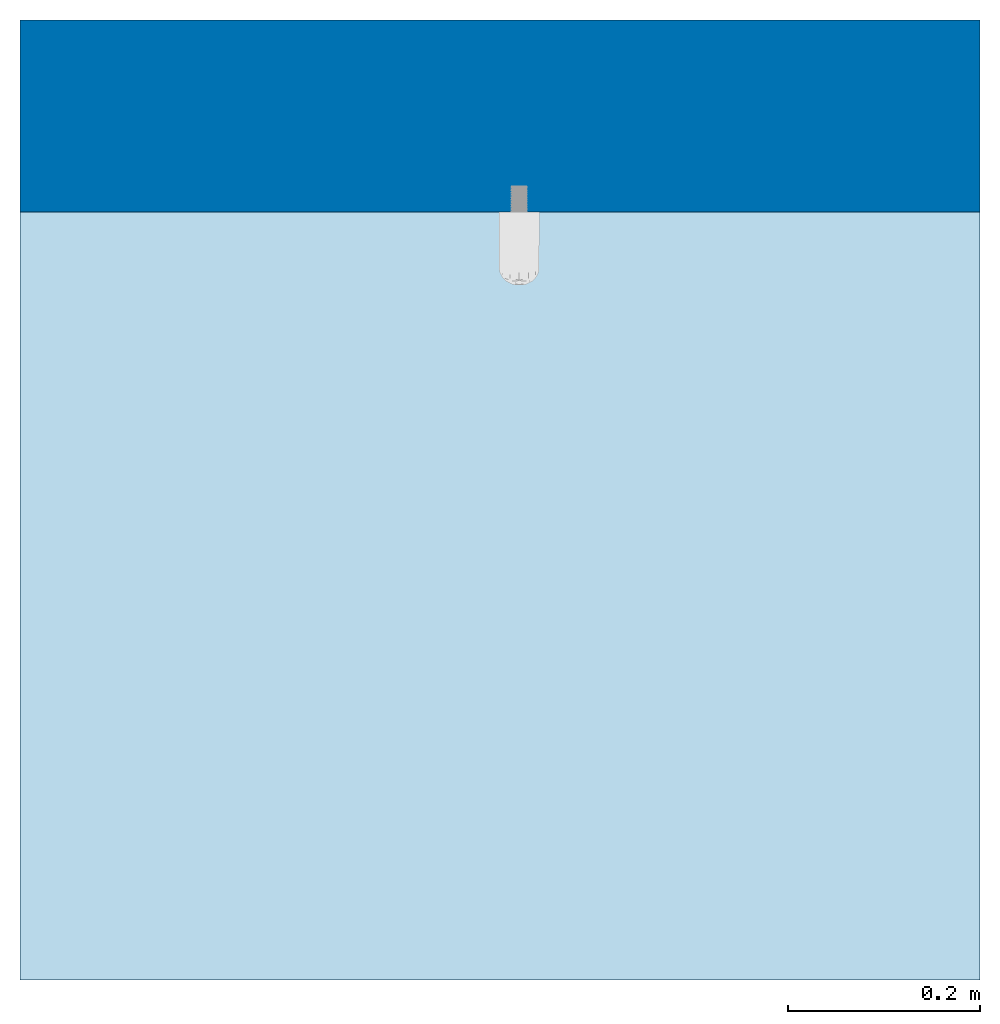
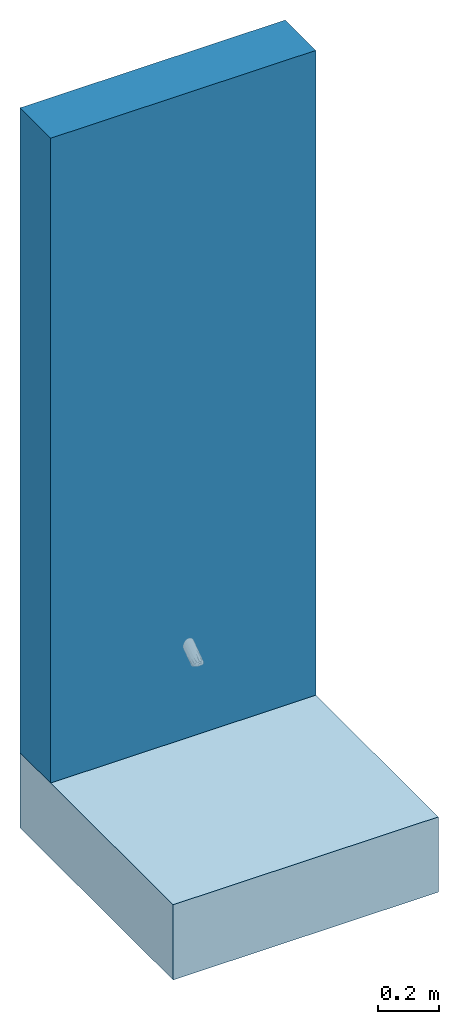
# One storey, incomplete: 1 slab, 1 wall.
"""IFC2X3 building model written with IfcOpenShell, lengths in millimetres."""

from ifc_helpers import new_model, entity, si_unit, converted_unit, derived_unit, direction, frame, frame_2d, origin, place, context, subcontext, project, spatial, rectangle, extrude, material, layer, layer_set, layer_usage, type_object, element, save


model = new_model("IFC2X3")

# Units and contexts
model_context = context("Model", 3, precision=0.01, world=origin(), true_north=direction((6.12303176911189e-17, 1.0)))
body_context = subcontext(model_context, "Body", "Model", "MODEL_VIEW")
ifc_project = project(units=[si_unit("LENGTHUNIT", "METRE", prefix="MILLI"), si_unit("AREAUNIT", "SQUARE_METRE"), si_unit("VOLUMEUNIT", "CUBIC_METRE"), converted_unit("PLANEANGLEUNIT", "DEGREE", entity("IfcRatioMeasure", 0.0174532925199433), si_unit("PLANEANGLEUNIT", "RADIAN"), dimensions=[0, 0, 0, 0, 0, 0, 0]), si_unit("MASSUNIT", "GRAM", prefix="KILO"), si_unit("TIMEUNIT", "SECOND"), si_unit("FREQUENCYUNIT", "HERTZ"), si_unit("THERMODYNAMICTEMPERATUREUNIT", "DEGREE_CELSIUS"), derived_unit("THERMALTRANSMITTANCEUNIT", [(si_unit("MASSUNIT", "GRAM", prefix="KILO"), 1), (si_unit("THERMODYNAMICTEMPERATUREUNIT", "KELVIN"), -1), (si_unit("TIMEUNIT", "SECOND"), -3)]), derived_unit("VOLUMETRICFLOWRATEUNIT", [(si_unit("LENGTHUNIT", "METRE"), 3), (si_unit("TIMEUNIT", "SECOND"), -1)]), si_unit("ELECTRICCURRENTUNIT", "AMPERE"), si_unit("ELECTRICVOLTAGEUNIT", "VOLT"), si_unit("POWERUNIT", "WATT"), si_unit("FORCEUNIT", "NEWTON", prefix="KILO"), si_unit("ILLUMINANCEUNIT", "LUX"), si_unit("LUMINOUSFLUXUNIT", "LUMEN"), si_unit("LUMINOUSINTENSITYUNIT", "CANDELA"), derived_unit("USERDEFINED", [(si_unit("MASSUNIT", "GRAM", prefix="KILO"), -1), (si_unit("LENGTHUNIT", "METRE"), -2), (si_unit("TIMEUNIT", "SECOND"), 3), (si_unit("LUMINOUSFLUXUNIT", "LUMEN"), 1)]), derived_unit("LINEARVELOCITYUNIT", [(si_unit("LENGTHUNIT", "METRE"), 1), (si_unit("TIMEUNIT", "SECOND"), -1)]), si_unit("PRESSUREUNIT", "PASCAL"), derived_unit("USERDEFINED", [(si_unit("LENGTHUNIT", "METRE"), -2), (si_unit("MASSUNIT", "GRAM", prefix="KILO"), 1), (si_unit("TIMEUNIT", "SECOND"), -2)])], contexts=[model_context])

# Site, building, storey
site_placement = place(None, origin())
site = spatial("IfcSite", under=ifc_project, at=site_placement, Name="Default", CompositionType="ELEMENT")
building_placement = place(site_placement, origin())
building = spatial("IfcBuilding", under=site, at=building_placement, CompositionType="ELEMENT")
storey_placement = place(building_placement, origin())
storey = spatial("IfcBuildingStorey", under=building, at=storey_placement, Name="Level 1", CompositionType="ELEMENT", Elevation=0.0)

# Slab
ifc_material_1 = material(Name="<Unnamed>")
ifc_layer_1 = layer(ifc_material_1, 300.0)
ifc_layer_set_1 = layer_set([ifc_layer_1], Name="Floor:Floor 1")
ifc_layer_usage_1 = layer_usage(ifc_layer_set_1, "AXIS3", "POSITIVE", 0.0)
slab_placement = place(storey_placement, origin())
element("IfcSlab", 1, at=slab_placement, inside=storey, material=ifc_layer_usage_1, Name="Floor:Floor 1:2454", ObjectType="Floor:Floor 1", PredefinedType="FLOOR", context=body_context, shape_type="SweptSolid", body=[
    extrude(rectangle(XDim=1000.0, YDim=999.999999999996, at=frame_2d((0.0, -2.8421709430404e-13), x_axis=(1.0, 0.0))), frame((4143.81003201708, 2293.11632870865, 0.0), z_axis=(0.0, 0.0, -1.0), x_axis=(0.0, 1.0, 0.0)), (0.0, 0.0, 1.0), 300.0),
])

# Wall
ifc_material_2 = material(Name="Default Wall")
ifc_layer_2 = layer(ifc_material_2, 200.0)
ifc_layer_set_2 = layer_set([ifc_layer_2], Name="Basic Wall:Wall 1")
ifc_layer_usage_2 = layer_usage(ifc_layer_set_2, "AXIS2", "NEGATIVE", 100.0)
wall_type = type_object("IfcWallType", Name="Basic Wall:Wall 1", PredefinedType="STANDARD", material=ifc_layer_set_2)
wall_placement = place(storey_placement, frame((3643.81003201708, 2693.11632870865, 0.0)))
element("IfcWallStandardCase", 2, at=wall_placement, inside=storey, type_object=wall_type, material=ifc_layer_usage_2, Name="Basic Wall:Wall 1:2416", ObjectType="Basic Wall:Wall 1:1514", context=body_context, shape_type="SweptSolid", body=[
    extrude(rectangle(XDim=1000.0, YDim=200.0, at=frame_2d((500.0, 3.5527136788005e-14), x_axis=(-1.0, 0.0))), origin(), (0.0, 0.0, 1.0), 2570.34932717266),
])

save(model, "model.ifc")
